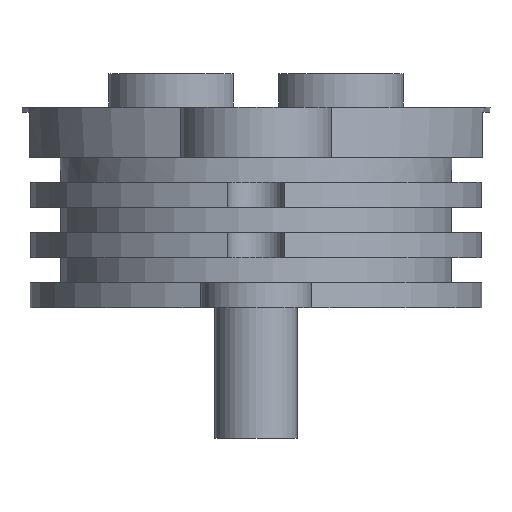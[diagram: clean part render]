
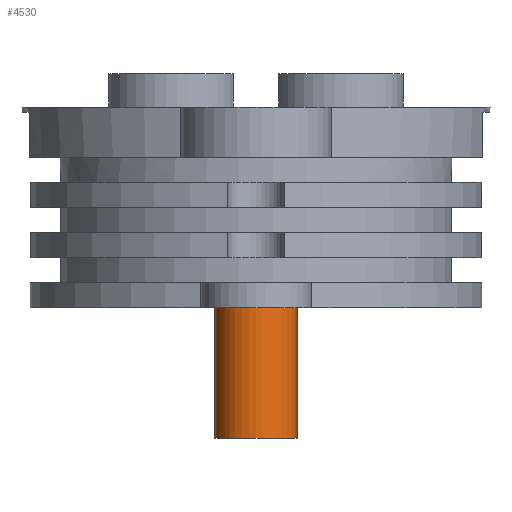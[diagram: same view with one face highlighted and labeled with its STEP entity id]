
A CAD part, left-side view. The second image highlights one B-rep face of the part: STEP entity #4530.
In plain terms, the highlighted cylindrical face has radius 2.45 mm (diameter 4.9 mm), a full revolution.
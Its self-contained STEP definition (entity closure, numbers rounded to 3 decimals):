
#4461 = PLANE('',#4462);
#4462 = AXIS2_PLACEMENT_3D('',#4463,#4464,#4465);
#4463 = CARTESIAN_POINT('',(-13.,0.,-21.));
#4464 = DIRECTION('',(0.,0.,1.));
#4465 = DIRECTION('',(1.,0.,-0.));
#4502 = EDGE_CURVE('',#4503,#4503,#4505,.T.);
#4503 = VERTEX_POINT('',#4504);
#4504 = CARTESIAN_POINT('',(-10.55,0.,-21.));
#4505 = SURFACE_CURVE('',#4506,(#4511,#4518),.PCURVE_S1.);
#4506 = CIRCLE('',#4507,2.45);
#4507 = AXIS2_PLACEMENT_3D('',#4508,#4509,#4510);
#4508 = CARTESIAN_POINT('',(-13.,0.,-21.));
#4509 = DIRECTION('',(0.,0.,1.));
#4510 = DIRECTION('',(1.,0.,-0.));
#4511 = PCURVE('',#4461,#4512);
#4512 = DEFINITIONAL_REPRESENTATION('',(#4513),#4517);
#4513 = CIRCLE('',#4514,2.45);
#4514 = AXIS2_PLACEMENT_2D('',#4515,#4516);
#4515 = CARTESIAN_POINT('',(0.,0.));
#4516 = DIRECTION('',(1.,0.));
#4517 = ( GEOMETRIC_REPRESENTATION_CONTEXT(2) 
PARAMETRIC_REPRESENTATION_CONTEXT() REPRESENTATION_CONTEXT('2D SPACE',''
  ) );
#4518 = PCURVE('',#4519,#4524);
#4519 = CYLINDRICAL_SURFACE('',#4520,2.45);
#4520 = AXIS2_PLACEMENT_3D('',#4521,#4522,#4523);
#4521 = CARTESIAN_POINT('',(-13.,0.,-33.8));
#4522 = DIRECTION('',(0.,0.,1.));
#4523 = DIRECTION('',(1.,0.,-0.));
#4524 = DEFINITIONAL_REPRESENTATION('',(#4525),#4529);
#4525 = LINE('',#4526,#4527);
#4526 = CARTESIAN_POINT('',(0.,12.8));
#4527 = VECTOR('',#4528,1.);
#4528 = DIRECTION('',(1.,0.));
#4529 = ( GEOMETRIC_REPRESENTATION_CONTEXT(2) 
PARAMETRIC_REPRESENTATION_CONTEXT() REPRESENTATION_CONTEXT('2D SPACE',''
  ) );
#4530 = ADVANCED_FACE('',(#4531),#4519,.T.);
#4531 = FACE_BOUND('',#4532,.T.);
#4532 = EDGE_LOOP('',(#4533,#4556,#4583,#4584));
#4533 = ORIENTED_EDGE('',*,*,#4534,.F.);
#4534 = EDGE_CURVE('',#4535,#4503,#4537,.T.);
#4535 = VERTEX_POINT('',#4536);
#4536 = CARTESIAN_POINT('',(-10.55,0.,-33.8));
#4537 = SEAM_CURVE('',#4538,(#4542,#4549),.PCURVE_S1.);
#4538 = LINE('',#4539,#4540);
#4539 = CARTESIAN_POINT('',(-10.55,0.,-33.8));
#4540 = VECTOR('',#4541,1.);
#4541 = DIRECTION('',(0.,0.,1.));
#4542 = PCURVE('',#4519,#4543);
#4543 = DEFINITIONAL_REPRESENTATION('',(#4544),#4548);
#4544 = LINE('',#4545,#4546);
#4545 = CARTESIAN_POINT('',(0.,0.));
#4546 = VECTOR('',#4547,1.);
#4547 = DIRECTION('',(0.,1.));
#4548 = ( GEOMETRIC_REPRESENTATION_CONTEXT(2) 
PARAMETRIC_REPRESENTATION_CONTEXT() REPRESENTATION_CONTEXT('2D SPACE',''
  ) );
#4549 = PCURVE('',#4519,#4550);
#4550 = DEFINITIONAL_REPRESENTATION('',(#4551),#4555);
#4551 = LINE('',#4552,#4553);
#4552 = CARTESIAN_POINT('',(6.283,0.));
#4553 = VECTOR('',#4554,1.);
#4554 = DIRECTION('',(0.,1.));
#4555 = ( GEOMETRIC_REPRESENTATION_CONTEXT(2) 
PARAMETRIC_REPRESENTATION_CONTEXT() REPRESENTATION_CONTEXT('2D SPACE',''
  ) );
#4556 = ORIENTED_EDGE('',*,*,#4557,.T.);
#4557 = EDGE_CURVE('',#4535,#4535,#4558,.T.);
#4558 = SURFACE_CURVE('',#4559,(#4564,#4571),.PCURVE_S1.);
#4559 = CIRCLE('',#4560,2.45);
#4560 = AXIS2_PLACEMENT_3D('',#4561,#4562,#4563);
#4561 = CARTESIAN_POINT('',(-13.,0.,-33.8));
#4562 = DIRECTION('',(0.,0.,1.));
#4563 = DIRECTION('',(1.,0.,-0.));
#4564 = PCURVE('',#4519,#4565);
#4565 = DEFINITIONAL_REPRESENTATION('',(#4566),#4570);
#4566 = LINE('',#4567,#4568);
#4567 = CARTESIAN_POINT('',(0.,0.));
#4568 = VECTOR('',#4569,1.);
#4569 = DIRECTION('',(1.,0.));
#4570 = ( GEOMETRIC_REPRESENTATION_CONTEXT(2) 
PARAMETRIC_REPRESENTATION_CONTEXT() REPRESENTATION_CONTEXT('2D SPACE',''
  ) );
#4571 = PCURVE('',#4572,#4577);
#4572 = PLANE('',#4573);
#4573 = AXIS2_PLACEMENT_3D('',#4574,#4575,#4576);
#4574 = CARTESIAN_POINT('',(-13.,0.,-33.8));
#4575 = DIRECTION('',(0.,0.,1.));
#4576 = DIRECTION('',(1.,0.,-0.));
#4577 = DEFINITIONAL_REPRESENTATION('',(#4578),#4582);
#4578 = CIRCLE('',#4579,2.45);
#4579 = AXIS2_PLACEMENT_2D('',#4580,#4581);
#4580 = CARTESIAN_POINT('',(0.,0.));
#4581 = DIRECTION('',(1.,0.));
#4582 = ( GEOMETRIC_REPRESENTATION_CONTEXT(2) 
PARAMETRIC_REPRESENTATION_CONTEXT() REPRESENTATION_CONTEXT('2D SPACE',''
  ) );
#4583 = ORIENTED_EDGE('',*,*,#4534,.T.);
#4584 = ORIENTED_EDGE('',*,*,#4502,.F.);
